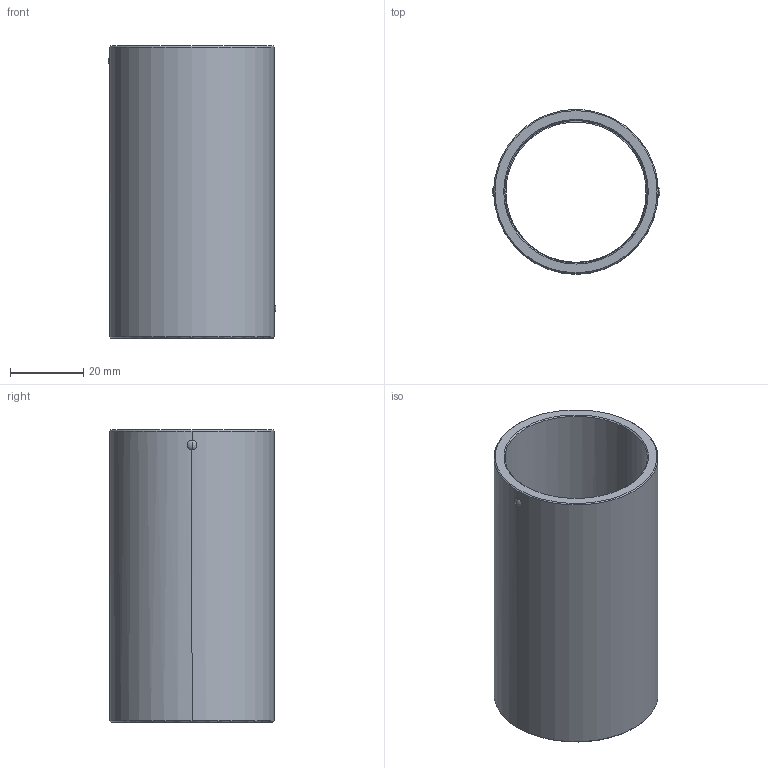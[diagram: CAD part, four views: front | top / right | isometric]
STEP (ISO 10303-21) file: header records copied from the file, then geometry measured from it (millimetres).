
FILE_DESCRIPTION(('CATIA V5 STEP Exchange'),'2;1');
FILE_NAME('C:\Users\Utente\Desktop\IO LAVORO\3D X SITO CF\X SITO\730\730-38x80.stp','2021-01-07T16:10:44+00:00',('none'),('none'),'CATIA Version 5 Release 20 GA (IN-10)','CATIA V5 STEP AP203','none');
FILE_SCHEMA(('CONFIG_CONTROL_DESIGN'));
Length unit declared in the file: millimetre
Products named in the file (1): 730-38x80
Bounding box: 45.99 x 45 x 80 mm (x, y, z)
Volume: 30917.8 mm3; surface area: 22295 mm2
Topology: 1 solids, 1 shells, 44 faces, 120 edges, 76 vertices
Faces by surface type: cylinder 18, cone 10, plane 8, sphere 8
Entity records: 1739 total; most frequent: CARTESIAN_POINT 676, ORIENTED_EDGE 240, DIRECTION 159, EDGE_CURVE 120, AXIS2_PLACEMENT_3D 78, VERTEX_POINT 76, B_SPLINE_CURVE_WITH_KNOTS 49, EDGE_LOOP 48
